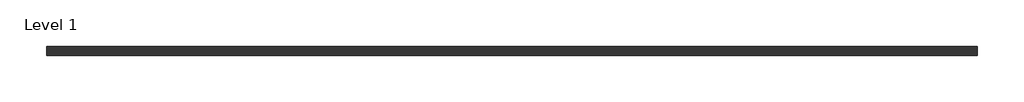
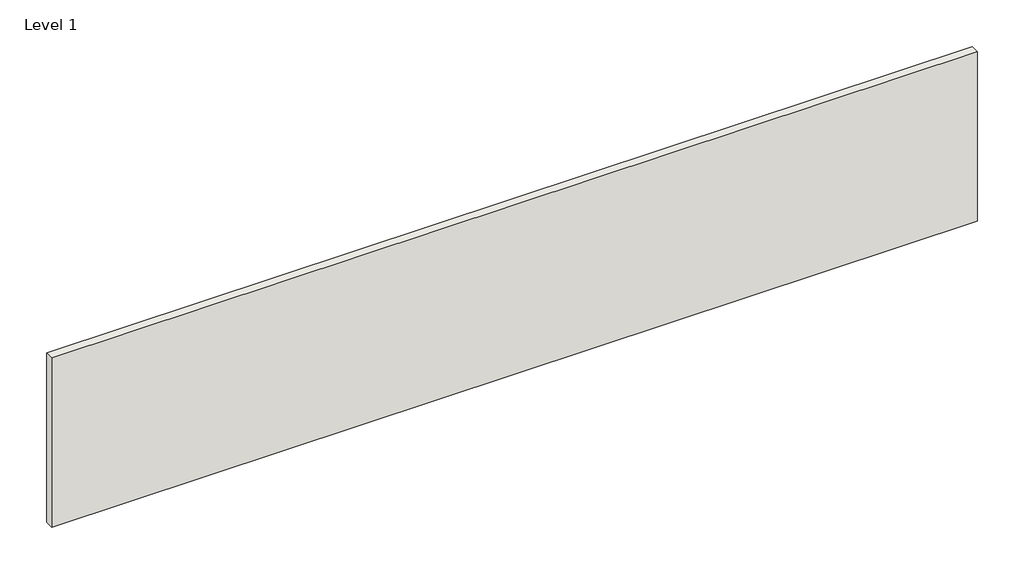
# One storey: 1 wall.
"""IFC4 building model written with IfcOpenShell, lengths in millimetres."""

import ifcopenshell
import ifcopenshell.guid

model = None  # the IFC model being written
_history = None  # IfcOwnerHistory: only IFC2X3 demands one
_inside = {}  # id of a spatial element -> (the spatial element, [elements in it])
_under = {}  # id of a project, library or spatial element -> (it, [spatial elements below it])
_declared = {}  # id of a project -> (the project, [libraries it declares])
_typed = {}  # id of a type object -> (the type object, [elements of that type])
_made_of = {}  # id of a material, layer set ... -> (it, [elements and type objects made of it])


def new_model(schema):
    """Start an empty IFC model of exactly this schema.

    Asked for "IFC4X3", IfcOpenShell would pick the latest addendum, in which some entities
    have other attributes; the version numbers below select the first issue.
    IFC2X3 requires an IfcOwnerHistory on every rooted entity: one is made here for all.
    """
    global model, _history
    if schema == "IFC4X3":
        model = ifcopenshell.file(schema_version=(4, 3, 0, 0))
    else:
        model = ifcopenshell.file(schema=schema)
    _inside.clear()
    _under.clear()
    _declared.clear()
    _typed.clear()
    _made_of.clear()
    _history = None
    if model.schema == "IFC2X3":
        org = make("IfcOrganization", Name="unknown")
        user = make(
            "IfcPersonAndOrganization",
            ThePerson=make("IfcPerson", FamilyName="unknown"),
            TheOrganization=org,
        )
        app = make(
            "IfcApplication",
            ApplicationDeveloper=org,
            Version="unknown",
            ApplicationFullName="unknown",
            ApplicationIdentifier="unknown",
        )
        _history = make(
            "IfcOwnerHistory",
            OwningUser=user,
            OwningApplication=app,
            ChangeAction="ADDED",
            CreationDate=0,
        )
    return model


def make(cls, **values):
    """One entity of the class cls with the attributes given. An attribute that is None is left unset."""
    return model.create_entity(
        cls, **{name: value for name, value in values.items() if value is not None}
    )


def rooted(cls, **values):
    """An entity with a GlobalId (a new one), such as an element, a storey or a relation."""
    return make(cls, GlobalId=ifcopenshell.guid.new(), OwnerHistory=_history, **values)


def si_unit(unit_type, name, prefix=None):
    """IfcSIUnit, for example si_unit("LENGTHUNIT", "METRE", prefix="MILLI")."""
    return make("IfcSIUnit", UnitType=unit_type, Prefix=prefix, Name=name)


def assignment(units):
    """IfcUnitAssignment: the units of a project."""
    return None if units is None else make("IfcUnitAssignment", Units=units)


def point(xyz):
    """IfcCartesianPoint."""
    return None if xyz is None else make("IfcCartesianPoint", Coordinates=xyz)


def direction(xyz):
    """IfcDirection."""
    return None if xyz is None else make("IfcDirection", DirectionRatios=xyz)


def frame(location, z_axis=None, x_axis=None):
    """IfcAxis2Placement3D, a coordinate frame: its origin and axes. An axis left out is left unset."""
    return make(
        "IfcAxis2Placement3D",
        Location=point(location),
        Axis=direction(z_axis),
        RefDirection=direction(x_axis),
    )


def origin():
    """The frame at (0, 0, 0) with its axes left unset."""
    return frame((0.0, 0.0, 0.0))


def origin_with_axes():
    """The frame at (0, 0, 0) with the z axis (0, 0, 1) and the x axis (1, 0, 0) written out."""
    return frame((0.0, 0.0, 0.0), z_axis=(0.0, 0.0, 1.0), x_axis=(1.0, 0.0, 0.0))


def place(relative_to, where):
    """IfcLocalPlacement: puts the frame where relative to a parent placement (None: the world)."""
    return make(
        "IfcLocalPlacement", PlacementRelTo=relative_to, RelativePlacement=where
    )


def context(
    kind, dimensions, precision=None, world=None, true_north=None, identifier=None
):
    """IfcGeometricRepresentationContext, for example the 3D "Model" context."""
    return make(
        "IfcGeometricRepresentationContext",
        ContextIdentifier=identifier,
        ContextType=kind,
        CoordinateSpaceDimension=dimensions,
        Precision=precision,
        WorldCoordinateSystem=world,
        TrueNorth=true_north,
    )


def project(units=None, contexts=None):
    """IfcProject with its units and contexts."""
    return rooted(
        "IfcProject",
        Name="project",
        RepresentationContexts=contexts,
        UnitsInContext=assignment(units),
    )


def spatial(cls, under=None, at=None, **own):
    """A site, building, storey or space (cls), placed at a placement, below another one or the project."""
    s = rooted(cls, ObjectPlacement=at, **own)
    if under is not None:
        _under.setdefault(under.id(), (under, []))[1].append(s)
    return s


def polyline(points):
    """IfcPolyline through the points."""
    return make("IfcPolyline", Points=[point(p) for p in points])


def outline(outer, holes=None, kind="AREA"):
    """IfcArbitraryClosedProfileDef: a profile drawn as a closed curve; with holes, ...WithVoids."""
    if holes is None:
        return make("IfcArbitraryClosedProfileDef", ProfileType=kind, OuterCurve=outer)
    return make(
        "IfcArbitraryProfileDefWithVoids",
        ProfileType=kind,
        OuterCurve=outer,
        InnerCurves=holes,
    )


def extrude(swept, where, along, depth):
    """IfcExtrudedAreaSolid: the profile swept, set in the frame where, extruded along a direction by depth."""
    return make(
        "IfcExtrudedAreaSolid",
        SweptArea=swept,
        Position=where,
        ExtrudedDirection=direction(along),
        Depth=depth,
    )


def shape(context_of_items, identifier, shape_type, items):
    """IfcShapeRepresentation: the items that make up one representation, for example the "Body"."""
    return make(
        "IfcShapeRepresentation",
        ContextOfItems=context_of_items,
        RepresentationIdentifier=identifier,
        RepresentationType=shape_type,
        Items=items,
    )


def made_of(thing, what):
    """Note that an element or type object is made of a material, layer set ...; save() writes the relation."""
    if what is not None:
        _made_of.setdefault(what.id(), (what, []))[1].append(thing)
    return thing


def element(
    cls,
    number,
    at=None,
    inside=None,
    cuts=None,
    type_object=None,
    material=None,
    context=None,
    identifier="Body",
    shape_type=None,
    held_by="IfcProductDefinitionShape",
    body=None,
    shapes=None,
    **own,
):
    """One element of the class cls, such as IfcWall. Its Tag is "e" and its number.

    at: its placement. inside: the storey or other place that contains it. cuts: it is an
    opening in that element (IfcRelVoidsElement). A single representation is given by context,
    identifier, shape_type and body (its items); several are given by shapes. held_by: the class
    of the entity that holds the representations. save() writes the other relations.
    """
    e = rooted(cls, Tag="e%d" % number, ObjectPlacement=at, **own)
    if body is not None:
        shapes = [shape(context, identifier, shape_type, body)]
    if shapes is not None:
        e.Representation = make(held_by, Representations=shapes)
    if inside is not None:
        _inside.setdefault(inside.id(), (inside, []))[1].append(e)
    if cuts is not None:
        rooted(
            "IfcRelVoidsElement", RelatingBuildingElement=cuts, RelatedOpeningElement=e
        )
    if type_object is not None:
        _typed.setdefault(type_object.id(), (type_object, []))[1].append(e)
    return made_of(e, material)


def aggregate(whole, parts):
    """IfcRelAggregates: a whole, such as a stair, and the parts it consists of."""
    return rooted("IfcRelAggregates", RelatingObject=whole, RelatedObjects=parts)


def save(model, path):
    """Write the relations noted so far, then the file.

    IfcRelAggregates (storeys below a building ...), IfcRelContainedInSpatialStructure (elements
    in a storey), IfcRelDefinesByType, IfcRelAssociatesMaterial and IfcRelDeclares: one each for
    every whole, place, type object, material and project.
    """
    for whole, parts in _under.values():
        aggregate(whole, parts)
    for where, things in _inside.values():
        rooted(
            "IfcRelContainedInSpatialStructure",
            RelatedElements=things,
            RelatingStructure=where,
        )
    for kind, things in _typed.values():
        rooted("IfcRelDefinesByType", RelatedObjects=things, RelatingType=kind)
    for what, things in _made_of.values():
        rooted("IfcRelAssociatesMaterial", RelatedObjects=things, RelatingMaterial=what)
    for by, libraries in _declared.values():
        rooted("IfcRelDeclares", RelatingContext=by, RelatedDefinitions=libraries)
    model.write(path)


model = new_model("IFC4")

# Units and contexts
model_context = context("Model", 3, world=origin())
ifc_project = project(units=[si_unit("LENGTHUNIT", "METRE", prefix="MILLI")], contexts=[model_context])

# Site, building, storey
site = spatial("IfcSite", under=ifc_project)
building = spatial("IfcBuilding", under=site)
storey = spatial("IfcBuildingStorey", under=building, Name="Level 1", Elevation=0.0)

# Wall
placement = place(None, origin())
element("IfcWall", 1, ObjectType="Wall", at=placement, inside=storey, context=model_context, shape_type="SweptSolid", body=[
    extrude(outline(polyline([(5009.1339559, 2925.7882687), (-8097.2660441, 2925.7882687), (-8097.2660441, 3052.7882687), (5009.1339559, 3052.7882687), (5009.1339559, 2925.7882687)])), origin_with_axes(), (0.0, 0.0, 1.0), 2540.0),
])

save(model, "model.ifc")
